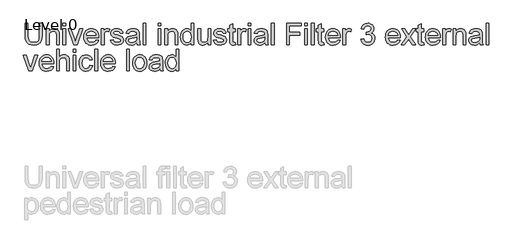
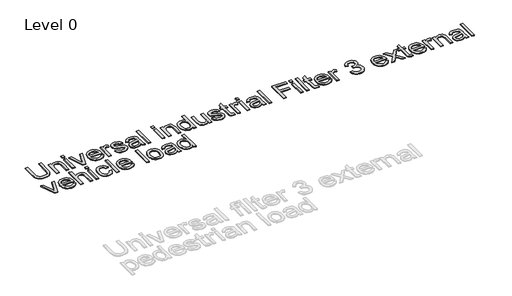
# One storey, part 6 of 10: 1 proxy.
"""IFC4 building model written with IfcOpenShell, lengths in millimetres."""

from ifc_helpers import new_model, si_unit, origin, origin_with_axes, place, context, project, spatial, polyline, outline, extrude, element, save

model = new_model("IFC4")

# Units and contexts
model_context = context("Model", 3, world=origin())
ifc_project = project(units=[si_unit("LENGTHUNIT", "METRE", prefix="MILLI")], contexts=[model_context])

# Site, building, storey
site = spatial("IfcSite", under=ifc_project)
building = spatial("IfcBuilding", under=site)
storey = spatial("IfcBuildingStorey", under=building, Name="Level 0", Elevation=0.0)

# Proxy
placement = place(None, origin())
element("IfcBuildingElementProxy", 1, Name="300mm Arial", ObjectType="300mm Arial", at=placement, inside=storey, context=model_context, shape_type="SweptSolid", body=[
    extrude(outline(polyline([(-15184.5419373, 8728.4409706), (-15146.870821, 8728.4409706), (-15146.870821, 8554.5799397), (-15149.4276009, 8513.8645999), (-15157.0979405, 8482.5118569), (-15171.4269442, 8458.3236157), (-15193.9597164, 8439.1017814), (-15224.7514394, 8426.5478084), (-15263.8572955, 8422.3631507), (-15302.1078259, 8426.0051824), (-15332.6880168, 8436.9312777), (-15355.6070651, 8454.7643574), (-15370.8741679, 8479.1273425), (-15379.4550154, 8511.8044607), (-15382.3152979, 8554.5799397), (-15382.3152979, 8728.4409706), (-15344.6441816, 8728.4409706), (-15344.6441816, 8555.9043149), (-15342.7863776, 8522.0499743), (-15337.2129653, 8498.4779355), (-15327.1146046, 8482.1531719), (-15311.6819549, 8470.0406572), (-15291.5588097, 8462.5358645), (-15267.3889627, 8460.034267), (-15229.0740529, 8464.9822798), (-15214.7312536, 8471.1672958), (-15203.5982247, 8479.8263183), (-15195.261099, 8492.0032123), (-15189.3060092, 8508.7418431), (-15184.5419373, 8555.9043149), (-15184.5419373, 8728.4409706)])), origin_with_axes(), (0.0, 0.0, 1.0), 10.0),
    extrude(outline(polyline([(-15085.655257, 8427.0720402), (-15085.655257, 8648.3898485), (-15047.9841407, 8648.3898485), (-15047.9841407, 8617.4877609), (-15034.8967388, 8633.0675634), (-15019.1789805, 8644.1959938), (-15000.830866, 8650.873052), (-14979.8523952, 8653.098738), (-14961.2835515, 8651.3053133), (-14944.2782063, 8645.9250391), (-14930.0963554, 8637.6293001), (-14919.9979946, 8627.089481), (-14908.7040174, 8599.3879667), (-14906.7174546, 8562.9676492), (-14906.7174546, 8427.0720402), (-14944.3885709, 8427.0720402), (-14944.3885709, 8557.8908777), (-14948.7295784, 8591.2209864), (-14954.735252, 8601.1446033), (-14964.0702576, 8608.842534), (-14976.0356195, 8613.7813498), (-14989.9323619, 8615.4276217), (-15011.9960846, 8611.7304077), (-15030.8040516, 8600.6387655), (-15038.3203406, 8591.5842699), (-15043.6891184, 8579.2096393), (-15047.9841407, 8544.4999731), (-15047.9841407, 8427.0720402), (-15085.655257, 8427.0720402)])), origin_with_axes(), (0.0, 0.0, 1.0), 10.0),
    extrude(outline(polyline([(-14854.9196697, 8690.7698543), (-14854.9196697, 8728.4409706), (-14817.2485534, 8728.4409706), (-14817.2485534, 8690.7698543), (-14854.9196697, 8690.7698543)])), origin_with_axes(), (0.0, 0.0, 1.0), 10.0),
    extrude(outline(polyline([(-14854.9196697, 8427.0720402), (-14854.9196697, 8648.3898485), (-14817.2485534, 8648.3898485), (-14817.2485534, 8427.0720402), (-14854.9196697, 8427.0720402)])), origin_with_axes(), (0.0, 0.0, 1.0), 10.0),
    extrude(outline(polyline([(-14706.4424964, 8427.0720402), (-14784.2863266, 8648.3898485), (-14744.4079183, 8648.3898485), (-14697.2454465, 8515.8051774), (-14683.0452015, 8471.2178796), (-14669.1392621, 8513.3035799), (-14621.6824847, 8648.3898485), (-14581.8040764, 8648.3898485), (-14658.6914134, 8427.0720402), (-14706.4424964, 8427.0720402)])), origin_with_axes(), (0.0, 0.0, 1.0), 10.0),
    extrude(outline(polyline([(-14393.8899533, 8492.9964937), (-14356.954601, 8488.2876042), (-14370.2627322, 8460.4573313), (-14391.4987203, 8439.6536044), (-14420.1843189, 8426.6857641), (-14455.8412813, 8422.3631507), (-14479.2155836, 8424.2278525), (-14500.042303, 8429.8219581), (-14518.3214397, 8439.1454674), (-14534.0529935, 8452.1983805), (-14546.7035356, 8468.6174138), (-14555.7396371, 8488.0392838), (-14561.161298, 8510.4639907), (-14562.9685183, 8535.8915344), (-14561.1429039, 8562.1813015), (-14555.6660607, 8585.3532686), (-14546.5379887, 8605.4074359), (-14533.7586879, 8622.3438032), (-14518.0685208, 8635.7990872), (-14500.2078499, 8645.4100043), (-14480.1766753, 8651.1765546), (-14457.9749969, 8653.098738), (-14436.4883891, 8651.1811531), (-14417.057322, 8645.4283984), (-14399.6817955, 8635.8404739), (-14384.3618096, 8622.4173796), (-14371.8561211, 8605.5178005), (-14362.9234864, 8585.5004214), (-14357.5639055, 8562.3652424), (-14355.7773786, 8536.1122636), (-14355.9981078, 8525.9587205), (-14525.297402, 8525.9587205), (-14518.7766936, 8497.7605656), (-14503.6291525, 8477.0304151), (-14481.7677649, 8464.283304), (-14455.1055173, 8460.034267), (-14435.0559486, 8462.0024356), (-14418.170165, 8467.9069417), (-14404.4481666, 8478.115667), (-14393.8899533, 8492.9964937)]), holes=[polyline([(-14525.297402, 8563.6298368), (-14393.4484949, 8563.6298368), (-14398.5436605, 8583.5322527), (-14408.5316567, 8597.769286), (-14430.4942118, 8611.0130378), (-14458.1221497, 8615.4276217), (-14483.5152044, 8611.9051516), (-14504.5120693, 8601.3377413), (-14519.1077874, 8584.865825), (-14525.297402, 8563.6298368)])]), origin_with_axes(), (0.0, 0.0, 1.0), 10.0),
    extrude(outline(polyline([(-14318.1062623, 8427.0720402), (-14318.1062623, 8648.3898485), (-14285.1440355, 8648.3898485), (-14285.1440355, 8615.6483509), (-14272.9671415, 8634.6310619), (-14261.7467406, 8645.8146745), (-14250.4895516, 8651.2777222), (-14238.2022929, 8653.098738), (-14219.4403112, 8650.1924703), (-14200.3840238, 8641.473667), (-14212.9655881, 8607.7020998), (-14226.2093399, 8613.4962413), (-14239.4530917, 8615.4276217), (-14250.7010837, 8613.5698177), (-14260.7534593, 8607.9964054), (-14268.8744543, 8599.1304493), (-14274.3283049, 8587.3950137), (-14278.9084357, 8566.3521636), (-14280.435146, 8543.3963271), (-14280.435146, 8427.0720402), (-14318.1062623, 8427.0720402)])), origin_with_axes(), (0.0, 0.0, 1.0), 10.0),
    extrude(outline(polyline([(-14190.9662448, 8492.9964937), (-14153.2951285, 8497.7053833), (-14147.3538342, 8481.5921519), (-14135.8575219, 8469.7463516), (-14118.732615, 8462.4622881), (-14095.9055372, 8460.034267), (-14073.3543709, 8462.259953), (-14057.4986569, 8468.9370112), (-14048.117666, 8478.6123077), (-14044.9906691, 8489.8327086), (-14048.1360601, 8499.4344286), (-14057.5722333, 8506.7552804), (-14096.3469956, 8517.4974346), (-14153.0743993, 8535.9283226), (-14167.4309941, 8545.1897518), (-14177.8328575, 8557.4494193), (-14184.1512308, 8571.9255758), (-14186.2573552, 8587.8364721), (-14184.5650981, 8602.4321902), (-14179.4883265, 8615.9058683), (-14171.4868931, 8627.7240774), (-14161.0206504, 8637.3533886), (-14137.0715325, 8648.5002131), (-14104.6611287, 8653.098738), (-14080.1417937, 8651.250131), (-14058.8230321, 8645.7043099), (-14041.6797311, 8637.0039007), (-14029.6867781, 8625.6915294), (-14021.740527, 8610.9302643), (-14016.7373319, 8591.883174), (-14054.4084482, 8587.1742845), (-14059.1633229, 8599.0292818), (-14068.571905, 8607.9596172), (-14082.7261647, 8613.5606206), (-14101.7180727, 8615.4276217), (-14123.3495341, 8613.6433941), (-14137.7705083, 8608.290711), (-14145.8823063, 8600.5651891), (-14148.5862389, 8591.6624448), (-14144.0980786, 8580.6995614), (-14130.0449864, 8572.3854283), (-14097.5977944, 8564.3656008), (-14042.3051305, 8546.6336886), (-14027.7002153, 8538.1540086), (-14016.6269673, 8526.5473317), (-14009.6464064, 8511.7768696), (-14007.3195528, 8493.8058341), (-14010.0510766, 8475.2277934), (-14018.245648, 8457.7533986), (-14031.5905674, 8442.7530102), (-14049.773135, 8431.5969887), (-14071.7356901, 8424.6716102), (-14096.420572, 8422.3631507), (-14134.404388, 8426.8145228), (-14162.1242963, 8440.1686392), (-14180.6287607, 8462.2783471), (-14190.9662448, 8492.9964937)])), origin_with_axes(), (0.0, 0.0, 1.0), 10.0),
    extrude(outline(polyline([(-13823.6728608, 8455.3253774), (-13841.6714874, 8439.8927277), (-13860.2035429, 8429.794367), (-13879.6920916, 8424.2209547), (-13900.5601978, 8422.3631507), (-13932.0416995, 8426.8329169), (-13955.2642505, 8440.2422156), (-13969.5840571, 8460.6044841), (-13974.357326, 8485.9331594), (-13972.5547042, 8501.5497501), (-13967.1468389, 8515.731601), (-13958.8051147, 8527.8717069), (-13948.2009161, 8537.3630624), (-13921.8237771, 8549.7238974), (-13889.2294323, 8555.3892801), (-13850.7121874, 8561.3489684), (-13823.89359, 8568.3387263), (-13823.6728608, 8576.7264358), (-13826.2664288, 8593.538643), (-13834.047133, 8604.5383147), (-13851.4479514, 8612.705295), (-13875.6913749, 8615.4276217), (-13898.1321766, 8613.6158029), (-13913.8039496, 8608.1803464), (-13924.4909216, 8598.1279709), (-13931.9773202, 8582.465395), (-13969.6484365, 8587.1742845), (-13963.109334, 8607.7756762), (-13953.3512641, 8623.962484), (-13939.4637188, 8636.3417132), (-13920.5361901, 8645.5203689), (-13897.3872156, 8651.2041458), (-13870.8353326, 8653.098738), (-13845.3687014, 8651.424875), (-13825.181177, 8646.4032857), (-13809.9600594, 8638.8525078), (-13799.3926491, 8629.5910785), (-13792.3844971, 8618.1407514), (-13787.8411545, 8604.0232799), (-13786.0017445, 8571.0610531), (-13786.0017445, 8524.1928869), (-13784.0887581, 8458.74668), (-13776.5839654, 8427.0720402), (-13814.2550817, 8427.0720402), (-13823.6728608, 8455.3253774)]), holes=[polyline([(-13823.6728608, 8530.66761), (-13884.4469664, 8519.1161154), (-13916.8573702, 8513.0092743), (-13931.5358618, 8503.0764604), (-13936.6862097, 8488.5819098), (-13933.8811095, 8477.379903), (-13925.4658088, 8468.2012473), (-13911.6242488, 8462.076012), (-13892.5403703, 8460.034267), (-13872.3068605, 8462.2875442), (-13854.4277956, 8469.0473758), (-13839.933245, 8479.0077809), (-13829.8532783, 8490.8627782), (-13825.3835121, 8503.0764604), (-13823.89359, 8519.9990322), (-13823.6728608, 8530.66761)])]), origin_with_axes(), (0.0, 0.0, 1.0), 10.0),
    extrude(outline(polyline([(-13734.2039596, 8427.0720402), (-13734.2039596, 8728.4409706), (-13696.5328432, 8728.4409706), (-13696.5328432, 8427.0720402), (-13734.2039596, 8427.0720402)])), origin_with_axes(), (0.0, 0.0, 1.0), 10.0),
    extrude(outline(polyline([(-13522.3039303, 8427.0720402), (-13522.3039303, 8648.3898485), (-13484.632814, 8648.3898485), (-13484.632814, 8427.0720402), (-13522.3039303, 8427.0720402)])), origin_with_axes(), (0.0, 0.0, 1.0), 10.0),
    extrude(outline(polyline([(-13522.3039303, 8690.7698543), (-13522.3039303, 8728.4409706), (-13484.632814, 8728.4409706), (-13484.632814, 8690.7698543), (-13522.3039303, 8690.7698543)])), origin_with_axes(), (0.0, 0.0, 1.0), 10.0),
    extrude(outline(polyline([(-13428.1261396, 8427.0720402), (-13428.1261396, 8648.3898485), (-13390.4550233, 8648.3898485), (-13390.4550233, 8617.4877609), (-13377.3676213, 8633.0675634), (-13361.649863, 8644.1959938), (-13343.3017485, 8650.873052), (-13322.3232778, 8653.098738), (-13303.754434, 8651.3053133), (-13286.7490888, 8645.9250391), (-13272.5672379, 8637.6293001), (-13262.4688771, 8627.089481), (-13251.1748999, 8599.3879667), (-13249.1883371, 8562.9676492), (-13249.1883371, 8427.0720402), (-13286.8594534, 8427.0720402), (-13286.8594534, 8557.8908777), (-13291.200461, 8591.2209864), (-13297.2061345, 8601.1446033), (-13306.5411402, 8608.842534), (-13318.5065021, 8613.7813498), (-13332.4032444, 8615.4276217), (-13354.4669671, 8611.7304077), (-13373.2749341, 8600.6387655), (-13380.7912231, 8591.5842699), (-13386.160001, 8579.2096393), (-13390.4550233, 8544.4999731), (-13390.4550233, 8427.0720402), (-13428.1261396, 8427.0720402)])), origin_with_axes(), (0.0, 0.0, 1.0), 10.0),
    extrude(outline(polyline([(-13060.8327556, 8427.0720402), (-13060.8327556, 8462.6094409), (-13072.1037402, 8445.0016889), (-13085.7567608, 8432.4247232), (-13101.7918172, 8424.8785438), (-13120.2089096, 8422.3631507), (-13144.5626977, 8426.0051824), (-13166.8563466, 8436.9312777), (-13185.7286929, 8454.3780813), (-13199.8185734, 8477.5822381), (-13208.5925589, 8505.6056491), (-13211.5172208, 8537.5102151), (-13208.8224852, 8569.019308), (-13200.7382783, 8597.4749804), (-13187.2737973, 8621.2585514), (-13168.4382392, 8638.7513402), (-13145.6571466, 8649.5118886), (-13120.3560624, 8653.098738), (-13101.9251744, 8650.5327611), (-13085.6280021, 8642.8348304), (-13071.8140331, 8631.0350154), (-13060.8327556, 8616.1633857), (-13060.8327556, 8728.4409706), (-13023.1616393, 8728.4409706), (-13023.1616393, 8427.0720402), (-13060.8327556, 8427.0720402)]), holes=[polyline([(-13173.8461045, 8537.6573679), (-13169.5970675, 8503.5822981), (-13156.8499563, 8479.3480717), (-13138.3270979, 8464.8627182), (-13116.7508189, 8460.034267), (-13095.1837369, 8464.641989), (-13077.129928, 8478.4651549), (-13064.9070487, 8501.7612823), (-13060.8327556, 8534.7878884), (-13064.9806251, 8570.8955062), (-13077.4242336, 8595.929876), (-13095.937895, 8610.5531853), (-13118.2959232, 8615.4276217), (-13140.0929314, 8610.7463233), (-13157.9536023, 8596.7024282), (-13169.872979, 8572.5785663), (-13173.8461045, 8537.6573679)])]), origin_with_axes(), (0.0, 0.0, 1.0), 10.0),
    extrude(outline(polyline([(-12825.3882787, 8427.0720402), (-12825.3882787, 8465.1110385), (-12839.0183066, 8446.4088376), (-12854.8924147, 8433.0501226), (-12873.0106029, 8425.0348936), (-12893.3728714, 8422.3631507), (-12911.7209859, 8424.2393488), (-12928.7999075, 8429.8679434), (-12943.1289112, 8438.3292292), (-12953.227272, 8448.7035015), (-12964.4476728, 8476.441804), (-12966.6549648, 8511.4641699), (-12966.6549648, 8648.3898485), (-12928.9838485, 8648.3898485), (-12928.9838485, 8529.1960821), (-12926.7029801, 8490.7892018), (-12921.2123414, 8477.9777113), (-12911.8037593, 8468.2380355), (-12899.1026335, 8462.0852091), (-12883.7343631, 8460.034267), (-12867.483176, 8462.1311943), (-12852.2804525, 8468.4219765), (-12839.7448735, 8478.3271992), (-12831.4951198, 8491.2674484), (-12826.914989, 8508.9901635), (-12825.3882787, 8533.242784), (-12825.3882787, 8648.3898485), (-12787.7171624, 8648.3898485), (-12787.7171624, 8427.0720402), (-12825.3882787, 8427.0720402)])), origin_with_axes(), (0.0, 0.0, 1.0), 10.0),
    extrude(outline(polyline([(-12750.0460461, 8492.9964937), (-12712.3749298, 8497.7053833), (-12706.4336355, 8481.5921519), (-12694.9373232, 8469.7463516), (-12677.8124163, 8462.4622881), (-12654.9853385, 8460.034267), (-12632.4341722, 8462.259953), (-12616.5784582, 8468.9370112), (-12607.1974673, 8478.6123077), (-12604.0704704, 8489.8327086), (-12607.2158614, 8499.4344286), (-12616.6520346, 8506.7552804), (-12655.4267969, 8517.4974346), (-12712.1542006, 8535.9283226), (-12726.5107954, 8545.1897518), (-12736.9126588, 8557.4494193), (-12743.2310321, 8571.9255758), (-12745.3371565, 8587.8364721), (-12743.6448993, 8602.4321902), (-12738.5681278, 8615.9058683), (-12730.5666944, 8627.7240774), (-12720.1004517, 8637.3533886), (-12696.1513338, 8648.5002131), (-12663.74093, 8653.098738), (-12639.221595, 8651.250131), (-12617.9028334, 8645.7043099), (-12600.7595324, 8637.0039007), (-12588.7665794, 8625.6915294), (-12580.8203283, 8610.9302643), (-12575.8171331, 8591.883174), (-12613.4882494, 8587.1742845), (-12618.2431242, 8599.0292818), (-12627.6517063, 8607.9596172), (-12641.805966, 8613.5606206), (-12660.797874, 8615.4276217), (-12682.4293353, 8613.6433941), (-12696.8503096, 8608.290711), (-12704.9621075, 8600.5651891), (-12707.6660402, 8591.6624448), (-12703.1778799, 8580.6995614), (-12689.1247877, 8572.3854283), (-12656.6775957, 8564.3656008), (-12601.3849318, 8546.6336886), (-12586.7800166, 8538.1540086), (-12575.7067685, 8526.5473317), (-12568.7262077, 8511.7768696), (-12566.3993541, 8493.8058341), (-12569.1308779, 8475.2277934), (-12577.3254493, 8457.7533986), (-12590.6703687, 8442.7530102), (-12608.8529363, 8431.5969887), (-12630.8154914, 8424.6716102), (-12655.5003733, 8422.3631507), (-12693.4841893, 8426.8145228), (-12721.2040976, 8440.1686392), (-12739.708562, 8462.2783471), (-12750.0460461, 8492.9964937)])), origin_with_axes(), (0.0, 0.0, 1.0), 10.0),
    extrude(outline(polyline([(-12443.9682261, 8458.4891626), (-12439.2593365, 8425.9683942), (-12467.4390974, 8422.3631507), (-12485.5204974, 8423.9266491), (-12499.0033725, 8428.6171446), (-12508.5315162, 8435.8460258), (-12514.7487219, 8445.0246816), (-12518.1700245, 8460.7884251), (-12519.3104587, 8487.7725694), (-12519.3104587, 8610.7187322), (-12547.5637959, 8610.7187322), (-12547.5637959, 8648.3898485), (-12519.3104587, 8648.3898485), (-12519.3104587, 8702.1741962), (-12481.6393424, 8724.3206923), (-12481.6393424, 8648.3898485), (-12443.9682261, 8648.3898485), (-12443.9682261, 8610.7187322), (-12481.6393424, 8610.7187322), (-12481.6393424, 8488.8762154), (-12479.6527796, 8469.452046), (-12473.2148447, 8462.5726527), (-12460.3757631, 8460.034267), (-12443.9682261, 8458.4891626)])), origin_with_axes(), (0.0, 0.0, 1.0), 10.0),
    extrude(outline(polyline([(-12406.2971098, 8427.0720402), (-12406.2971098, 8648.3898485), (-12373.334883, 8648.3898485), (-12373.334883, 8615.6483509), (-12361.157989, 8634.6310619), (-12349.9375881, 8645.8146745), (-12338.6803991, 8651.2777222), (-12326.3931404, 8653.098738), (-12307.6311587, 8650.1924703), (-12288.5748713, 8641.473667), (-12301.1564355, 8607.7020998), (-12314.4001874, 8613.4962413), (-12327.6439392, 8615.4276217), (-12338.8919312, 8613.5698177), (-12348.9443067, 8607.9964054), (-12357.0653018, 8599.1304493), (-12362.5191523, 8587.3950137), (-12367.0992832, 8566.3521636), (-12368.6259935, 8543.3963271), (-12368.6259935, 8427.0720402), (-12406.2971098, 8427.0720402)])), origin_with_axes(), (0.0, 0.0, 1.0), 10.0),
    extrude(outline(polyline([(-12265.0304236, 8690.7698543), (-12265.0304236, 8728.4409706), (-12227.3593073, 8728.4409706), (-12227.3593073, 8690.7698543), (-12265.0304236, 8690.7698543)])), origin_with_axes(), (0.0, 0.0, 1.0), 10.0),
    extrude(outline(polyline([(-12265.0304236, 8427.0720402), (-12265.0304236, 8648.3898485), (-12227.3593073, 8648.3898485), (-12227.3593073, 8427.0720402), (-12265.0304236, 8427.0720402)])), origin_with_axes(), (0.0, 0.0, 1.0), 10.0),
    extrude(outline(polyline([(-12029.5859467, 8455.3253774), (-12047.5845733, 8439.8927277), (-12066.1166288, 8429.794367), (-12085.6051775, 8424.2209547), (-12106.4732837, 8422.3631507), (-12137.9547854, 8426.8329169), (-12161.1773364, 8440.2422156), (-12175.497143, 8460.6044841), (-12180.2704119, 8485.9331594), (-12178.4677902, 8501.5497501), (-12173.0599248, 8515.731601), (-12164.7182006, 8527.8717069), (-12154.1140021, 8537.3630624), (-12127.736863, 8549.7238974), (-12095.1425182, 8555.3892801), (-12056.6252733, 8561.3489684), (-12029.8066759, 8568.3387263), (-12029.5859467, 8576.7264358), (-12032.1795148, 8593.538643), (-12039.960219, 8604.5383147), (-12057.3610373, 8612.705295), (-12081.6044608, 8615.4276217), (-12104.0452625, 8613.6158029), (-12119.7170355, 8608.1803464), (-12130.4040075, 8598.1279709), (-12137.8904061, 8582.465395), (-12175.5615224, 8587.1742845), (-12169.0224199, 8607.7756762), (-12159.26435, 8623.962484), (-12145.3768047, 8636.3417132), (-12126.449276, 8645.5203689), (-12103.3003015, 8651.2041458), (-12076.7484185, 8653.098738), (-12051.2817874, 8651.424875), (-12031.0942629, 8646.4032857), (-12015.8731453, 8638.8525078), (-12005.305735, 8629.5910785), (-11998.297583, 8618.1407514), (-11993.7542404, 8604.0232799), (-11991.9148304, 8571.0610531), (-11991.9148304, 8524.1928869), (-11990.001844, 8458.74668), (-11982.4970513, 8427.0720402), (-12020.1681676, 8427.0720402), (-12029.5859467, 8455.3253774)]), holes=[polyline([(-12029.5859467, 8530.66761), (-12090.3600523, 8519.1161154), (-12122.7704561, 8513.0092743), (-12137.4489477, 8503.0764604), (-12142.5992956, 8488.5819098), (-12139.7941954, 8477.379903), (-12131.3788948, 8468.2012473), (-12117.5373347, 8462.076012), (-12098.4534562, 8460.034267), (-12078.2199465, 8462.2875442), (-12060.3408815, 8469.0473758), (-12045.8463309, 8479.0077809), (-12035.7663642, 8490.8627782), (-12031.296598, 8503.0764604), (-12029.8066759, 8519.9990322), (-12029.5859467, 8530.66761)])]), origin_with_axes(), (0.0, 0.0, 1.0), 10.0),
    extrude(outline(polyline([(-11940.1170455, 8427.0720402), (-11940.1170455, 8728.4409706), (-11902.4459292, 8728.4409706), (-11902.4459292, 8427.0720402), (-11940.1170455, 8427.0720402)])), origin_with_axes(), (0.0, 0.0, 1.0), 10.0),
    extrude(outline(polyline([(-11723.5081267, 8427.0720402), (-11723.5081267, 8728.4409706), (-11521.0258766, 8728.4409706), (-11521.0258766, 8690.7698543), (-11685.8370104, 8690.7698543), (-11685.8370104, 8601.3009531), (-11544.5703243, 8601.3009531), (-11544.5703243, 8563.6298368), (-11685.8370104, 8563.6298368), (-11685.8370104, 8427.0720402), (-11723.5081267, 8427.0720402)])), origin_with_axes(), (0.0, 0.0, 1.0), 10.0),
    extrude(outline(polyline([(-11473.9369812, 8690.7698543), (-11473.9369812, 8728.4409706), (-11436.2658649, 8728.4409706), (-11436.2658649, 8690.7698543), (-11473.9369812, 8690.7698543)])), origin_with_axes(), (0.0, 0.0, 1.0), 10.0),
    extrude(outline(polyline([(-11473.9369812, 8427.0720402), (-11473.9369812, 8648.3898485), (-11436.2658649, 8648.3898485), (-11436.2658649, 8427.0720402), (-11473.9369812, 8427.0720402)])), origin_with_axes(), (0.0, 0.0, 1.0), 10.0),
    extrude(outline(polyline([(-11379.7591904, 8427.0720402), (-11379.7591904, 8728.4409706), (-11342.0880741, 8728.4409706), (-11342.0880741, 8427.0720402), (-11379.7591904, 8427.0720402)])), origin_with_axes(), (0.0, 0.0, 1.0), 10.0),
    extrude(outline(polyline([(-11205.5302775, 8458.4891626), (-11200.821388, 8425.9683942), (-11229.0011488, 8422.3631507), (-11247.0825489, 8423.9266491), (-11260.565424, 8428.6171446), (-11270.0935677, 8435.8460258), (-11276.3107734, 8445.0246816), (-11279.7320759, 8460.7884251), (-11280.8725101, 8487.7725694), (-11280.8725101, 8610.7187322), (-11309.1258474, 8610.7187322), (-11309.1258474, 8648.3898485), (-11280.8725101, 8648.3898485), (-11280.8725101, 8702.1741962), (-11243.2013938, 8724.3206923), (-11243.2013938, 8648.3898485), (-11205.5302775, 8648.3898485), (-11205.5302775, 8610.7187322), (-11243.2013938, 8610.7187322), (-11243.2013938, 8488.8762154), (-11241.214831, 8469.452046), (-11234.7768961, 8462.5726527), (-11221.9378145, 8460.034267), (-11205.5302775, 8458.4891626)])), origin_with_axes(), (0.0, 0.0, 1.0), 10.0),
    extrude(outline(polyline([(-11012.9072648, 8492.9964937), (-10975.9719125, 8488.2876042), (-10989.2800437, 8460.4573313), (-11010.5160319, 8439.6536044), (-11039.2016304, 8426.6857641), (-11074.8585928, 8422.3631507), (-11098.2328951, 8424.2278525), (-11119.0596145, 8429.8219581), (-11137.3387512, 8439.1454674), (-11153.070305, 8452.1983805), (-11165.7208471, 8468.6174138), (-11174.7569486, 8488.0392838), (-11180.1786095, 8510.4639907), (-11181.9858298, 8535.8915344), (-11180.1602154, 8562.1813015), (-11174.6833722, 8585.3532686), (-11165.5553002, 8605.4074359), (-11152.7759994, 8622.3438032), (-11137.0858323, 8635.7990872), (-11119.2251614, 8645.4100043), (-11099.1939868, 8651.1765546), (-11076.9923084, 8653.098738), (-11055.5057006, 8651.1811531), (-11036.0746335, 8645.4283984), (-11018.699107, 8635.8404739), (-11003.3791212, 8622.4173796), (-10990.8734326, 8605.5178005), (-10981.9407979, 8585.5004214), (-10976.5812171, 8562.3652424), (-10974.7946901, 8536.1122636), (-10975.0154193, 8525.9587205), (-11144.3147135, 8525.9587205), (-11137.7940051, 8497.7605656), (-11122.646464, 8477.0304151), (-11100.7850764, 8464.283304), (-11074.1228288, 8460.034267), (-11054.0732601, 8462.0024356), (-11037.1874765, 8467.9069417), (-11023.4654781, 8478.115667), (-11012.9072648, 8492.9964937)]), holes=[polyline([(-11144.3147135, 8563.6298368), (-11012.4658064, 8563.6298368), (-11017.5609721, 8583.5322527), (-11027.5489682, 8597.769286), (-11049.5115234, 8611.0130378), (-11077.1394612, 8615.4276217), (-11102.5325159, 8611.9051516), (-11123.5293808, 8601.3377413), (-11138.1250989, 8584.865825), (-11144.3147135, 8563.6298368)])]), origin_with_axes(), (0.0, 0.0, 1.0), 10.0),
    extrude(outline(polyline([(-10937.1235738, 8427.0720402), (-10937.1235738, 8648.3898485), (-10904.1613471, 8648.3898485), (-10904.1613471, 8615.6483509), (-10891.984453, 8634.6310619), (-10880.7640522, 8645.8146745), (-10869.5068631, 8651.2777222), (-10857.2196045, 8653.098738), (-10838.4576227, 8650.1924703), (-10819.4013354, 8641.473667), (-10831.9828996, 8607.7020998), (-10845.2266514, 8613.4962413), (-10858.4704033, 8615.4276217), (-10869.7183953, 8613.5698177), (-10879.7707708, 8607.9964054), (-10887.8917658, 8599.1304493), (-10893.3456164, 8587.3950137), (-10897.9257472, 8566.3521636), (-10899.4524575, 8543.3963271), (-10899.4524575, 8427.0720402), (-10937.1235738, 8427.0720402)])), origin_with_axes(), (0.0, 0.0, 1.0), 10.0),
    extrude(outline(polyline([(-10687.5524283, 8507.1231623), (-10649.881312, 8511.8320519), (-10641.4476173, 8488.1588455), (-10629.0959793, 8472.1743728), (-10612.2193927, 8463.0692934), (-10590.2108524, 8460.034267), (-10564.3855363, 8464.2097276), (-10544.4463322, 8476.7361095), (-10531.699221, 8495.4245149), (-10527.450184, 8518.0860458), (-10531.6624328, 8539.5979455), (-10544.2991794, 8557.0447491), (-10563.4290431, 8568.6054408), (-10587.1206436, 8572.4590047), (-10613.5345709, 8568.3387263), (-10609.3407161, 8606.0098427), (-10603.3074514, 8605.5683843), (-10580.737891, 8608.2723169), (-10560.5595636, 8616.3841149), (-10546.3225304, 8630.1061133), (-10541.5768526, 8649.6406473), (-10545.0165493, 8665.9102285), (-10555.3356392, 8679.1079951), (-10571.0809886, 8687.8543895), (-10590.7994636, 8690.7698543), (-10610.5547267, 8687.8267984), (-10626.7047463, 8678.9976305), (-10638.4953642, 8664.2823507), (-10645.1724225, 8643.680959), (-10682.8435388, 8648.3898485), (-10671.7518966, 8682.216598), (-10652.0150276, 8707.4716969), (-10625.0124891, 8723.1986522), (-10592.1238388, 8728.4409706), (-10568.4414353, 8725.8565996), (-10546.6904123, 8718.1034866), (-10528.3514949, 8705.8714102), (-10514.905408, 8689.8501494), (-10506.6556542, 8671.3916702), (-10503.9057363, 8651.8479393), (-10506.5176985, 8633.6377805), (-10514.353585, 8617.1198789), (-10527.3030312, 8603.0483926), (-10545.2556726, 8592.1774796), (-10521.6744367, 8582.649336), (-10504.2000419, 8566.42574), (-10493.3843112, 8544.3896085), (-10489.7790677, 8517.4238582), (-10491.5816895, 8498.3123886), (-10496.9895548, 8480.7092351), (-10506.0026637, 8464.6143978), (-10518.6210161, 8450.0278767), (-10533.993885, 8437.9245591), (-10551.2705432, 8429.2793322), (-10570.4509907, 8424.092196), (-10591.5352276, 8422.3631507), (-10610.5915149, 8423.8392772), (-10627.9555451, 8428.2676567), (-10643.6273181, 8435.6482892), (-10657.6068339, 8445.9811747), (-10669.328474, 8458.659308), (-10678.2266197, 8473.0756837), (-10684.3012712, 8489.2303018), (-10687.5524283, 8507.1231623)])), origin_with_axes(), (0.0, 0.0, 1.0), 10.0),
    extrude(outline(polyline([(-10174.724927, 8492.9964937), (-10137.7895747, 8488.2876042), (-10151.0977059, 8460.4573313), (-10172.3336941, 8439.6536044), (-10201.0192926, 8426.6857641), (-10236.676255, 8422.3631507), (-10260.0505573, 8424.2278525), (-10280.8772767, 8429.8219581), (-10299.1564134, 8439.1454674), (-10314.8879672, 8452.1983805), (-10327.5385093, 8468.6174138), (-10336.5746108, 8488.0392838), (-10341.9962717, 8510.4639907), (-10343.803492, 8535.8915344), (-10341.9778776, 8562.1813015), (-10336.5010344, 8585.3532686), (-10327.3729624, 8605.4074359), (-10314.5936616, 8622.3438032), (-10298.9034945, 8635.7990872), (-10281.0428236, 8645.4100043), (-10261.011649, 8651.1765546), (-10238.8099706, 8653.098738), (-10217.3233628, 8651.1811531), (-10197.8922957, 8645.4283984), (-10180.5167692, 8635.8404739), (-10165.1967833, 8622.4173796), (-10152.6910948, 8605.5178005), (-10143.7584601, 8585.5004214), (-10138.3988793, 8562.3652424), (-10136.6123523, 8536.1122636), (-10136.8330815, 8525.9587205), (-10306.1323757, 8525.9587205), (-10299.6116673, 8497.7605656), (-10284.4641262, 8477.0304151), (-10262.6027386, 8464.283304), (-10235.940491, 8460.034267), (-10215.8909223, 8462.0024356), (-10199.0051387, 8467.9069417), (-10185.2831403, 8478.115667), (-10174.724927, 8492.9964937)]), holes=[polyline([(-10306.1323757, 8563.6298368), (-10174.2834686, 8563.6298368), (-10179.3786343, 8583.5322527), (-10189.3666304, 8597.769286), (-10211.3291855, 8611.0130378), (-10238.9571234, 8615.4276217), (-10264.3501781, 8611.9051516), (-10285.347043, 8601.3377413), (-10299.9427611, 8584.865825), (-10306.1323757, 8563.6298368)])]), origin_with_axes(), (0.0, 0.0, 1.0), 10.0),
    extrude(outline(polyline([(-10122.4856837, 8427.0720402), (-10041.9931032, 8538.3195555), (-10117.7767942, 8648.3898485), (-10072.4537324, 8648.3898485), (-10035.886262, 8595.4148412), (-10018.8165375, 8570.3988655), (-10004.0276813, 8590.8531045), (-9962.3834394, 8648.3898485), (-9917.0603776, 8648.3898485), (-9996.6700414, 8538.3195555), (-9920.0034336, 8427.0720402), (-9965.3264954, 8427.0720402), (-10011.4588976, 8493.9529869), (-10019.9201835, 8506.1666692), (-10077.1626219, 8427.0720402), (-10122.4856837, 8427.0720402)])), origin_with_axes(), (0.0, 0.0, 1.0), 10.0),
    extrude(outline(polyline([(-9806.9900846, 8458.4891626), (-9802.2811951, 8425.9683942), (-9830.4609559, 8422.3631507), (-9848.542356, 8423.9266491), (-9862.0252311, 8428.6171446), (-9871.5533748, 8435.8460258), (-9877.7705805, 8445.0246816), (-9881.1918831, 8460.7884251), (-9882.3323173, 8487.7725694), (-9882.3323173, 8610.7187322), (-9910.5856545, 8610.7187322), (-9910.5856545, 8648.3898485), (-9882.3323173, 8648.3898485), (-9882.3323173, 8702.1741962), (-9844.661201, 8724.3206923), (-9844.661201, 8648.3898485), (-9806.9900846, 8648.3898485), (-9806.9900846, 8610.7187322), (-9844.661201, 8610.7187322), (-9844.661201, 8488.8762154), (-9842.6746382, 8469.452046), (-9836.2367033, 8462.5726527), (-9823.3976216, 8460.034267), (-9806.9900846, 8458.4891626)])), origin_with_axes(), (0.0, 0.0, 1.0), 10.0),
    extrude(outline(polyline([(-9614.367072, 8492.9964937), (-9577.4317197, 8488.2876042), (-9590.7398508, 8460.4573313), (-9611.975839, 8439.6536044), (-9640.6614376, 8426.6857641), (-9676.3184, 8422.3631507), (-9699.6927022, 8424.2278525), (-9720.5194217, 8429.8219581), (-9738.7985583, 8439.1454674), (-9754.5301121, 8452.1983805), (-9767.1806542, 8468.6174138), (-9776.2167557, 8488.0392838), (-9781.6384167, 8510.4639907), (-9783.445637, 8535.8915344), (-9781.6200226, 8562.1813015), (-9776.1431793, 8585.3532686), (-9767.0151073, 8605.4074359), (-9754.2358065, 8622.3438032), (-9738.5456394, 8635.7990872), (-9720.6849686, 8645.4100043), (-9700.6537939, 8651.1765546), (-9678.4521155, 8653.098738), (-9656.9655077, 8651.1811531), (-9637.5344406, 8645.4283984), (-9620.1589141, 8635.8404739), (-9604.8389283, 8622.4173796), (-9592.3332397, 8605.5178005), (-9583.400605, 8585.5004214), (-9578.0410242, 8562.3652424), (-9576.2544973, 8536.1122636), (-9576.4752265, 8525.9587205), (-9745.7745206, 8525.9587205), (-9739.2538123, 8497.7605656), (-9724.1062711, 8477.0304151), (-9702.2448836, 8464.283304), (-9675.582636, 8460.034267), (-9655.5330672, 8462.0024356), (-9638.6472837, 8467.9069417), (-9624.9252852, 8478.115667), (-9614.367072, 8492.9964937)]), holes=[polyline([(-9745.7745206, 8563.6298368), (-9613.9256136, 8563.6298368), (-9619.0207792, 8583.5322527), (-9629.0087754, 8597.769286), (-9650.9713305, 8611.0130378), (-9678.5992683, 8615.4276217), (-9703.992323, 8611.9051516), (-9724.9891879, 8601.3377413), (-9739.5849061, 8584.865825), (-9745.7745206, 8563.6298368)])]), origin_with_axes(), (0.0, 0.0, 1.0), 10.0),
    extrude(outline(polyline([(-9538.583381, 8427.0720402), (-9538.583381, 8648.3898485), (-9505.6211542, 8648.3898485), (-9505.6211542, 8615.6483509), (-9493.4442602, 8634.6310619), (-9482.2238593, 8645.8146745), (-9470.9666702, 8651.2777222), (-9458.6794116, 8653.098738), (-9439.9174299, 8650.1924703), (-9420.8611425, 8641.473667), (-9433.4427067, 8607.7020998), (-9446.6864586, 8613.4962413), (-9459.9302104, 8615.4276217), (-9471.1782024, 8613.5698177), (-9481.2305779, 8607.9964054), (-9489.351573, 8599.1304493), (-9494.8054235, 8587.3950137), (-9499.3855544, 8566.3521636), (-9500.9122647, 8543.3963271), (-9500.9122647, 8427.0720402), (-9538.583381, 8427.0720402)])), origin_with_axes(), (0.0, 0.0, 1.0), 10.0),
    extrude(outline(polyline([(-9397.3166948, 8427.0720402), (-9397.3166948, 8648.3898485), (-9359.6455785, 8648.3898485), (-9359.6455785, 8617.4877609), (-9346.5581765, 8633.0675634), (-9330.8404183, 8644.1959938), (-9312.4923038, 8650.873052), (-9291.513833, 8653.098738), (-9272.9449893, 8651.3053133), (-9255.9396441, 8645.9250391), (-9241.7577932, 8637.6293001), (-9231.6594324, 8627.089481), (-9220.3654551, 8599.3879667), (-9218.3788924, 8562.9676492), (-9218.3788924, 8427.0720402), (-9256.0500087, 8427.0720402), (-9256.0500087, 8557.8908777), (-9260.3910162, 8591.2209864), (-9266.3966898, 8601.1446033), (-9275.7316954, 8608.842534), (-9287.6970573, 8613.7813498), (-9301.5937997, 8615.4276217), (-9323.6575223, 8611.7304077), (-9342.4654893, 8600.6387655), (-9349.9817783, 8591.5842699), (-9355.3505562, 8579.2096393), (-9359.6455785, 8544.4999731), (-9359.6455785, 8427.0720402), (-9397.3166948, 8427.0720402)])), origin_with_axes(), (0.0, 0.0, 1.0), 10.0),
    extrude(outline(polyline([(-9025.3144213, 8455.3253774), (-9043.3130479, 8439.8927277), (-9061.8451034, 8429.794367), (-9081.3336521, 8424.2209547), (-9102.2017583, 8422.3631507), (-9133.68326, 8426.8329169), (-9156.905811, 8440.2422156), (-9171.2256176, 8460.6044841), (-9175.9988865, 8485.9331594), (-9174.1962647, 8501.5497501), (-9168.7883994, 8515.731601), (-9160.4466752, 8527.8717069), (-9149.8424767, 8537.3630624), (-9123.4653376, 8549.7238974), (-9090.8709928, 8555.3892801), (-9052.3537479, 8561.3489684), (-9025.5351505, 8568.3387263), (-9025.3144213, 8576.7264358), (-9027.9079894, 8593.538643), (-9035.6886936, 8604.5383147), (-9053.0895119, 8612.705295), (-9077.3329354, 8615.4276217), (-9099.7737371, 8613.6158029), (-9115.4455101, 8608.1803464), (-9126.1324821, 8598.1279709), (-9133.6188807, 8582.465395), (-9171.289997, 8587.1742845), (-9164.7508945, 8607.7756762), (-9154.9928246, 8623.962484), (-9141.1052793, 8636.3417132), (-9122.1777506, 8645.5203689), (-9099.0287761, 8651.2041458), (-9072.4768931, 8653.098738), (-9047.010262, 8651.424875), (-9026.8227375, 8646.4032857), (-9011.6016199, 8638.8525078), (-9001.0342096, 8629.5910785), (-8994.0260576, 8618.1407514), (-8989.482715, 8604.0232799), (-8987.643305, 8571.0610531), (-8987.643305, 8524.1928869), (-8985.7303186, 8458.74668), (-8978.2255259, 8427.0720402), (-9015.8966422, 8427.0720402), (-9025.3144213, 8455.3253774)]), holes=[polyline([(-9025.3144213, 8530.66761), (-9086.0885269, 8519.1161154), (-9118.4989307, 8513.0092743), (-9133.1774223, 8503.0764604), (-9138.3277702, 8488.5819098), (-9135.52267, 8477.379903), (-9127.1073694, 8468.2012473), (-9113.2658093, 8462.076012), (-9094.1819308, 8460.034267), (-9073.9484211, 8462.2875442), (-9056.0693561, 8469.0473758), (-9041.5748055, 8479.0077809), (-9031.4948388, 8490.8627782), (-9027.0250726, 8503.0764604), (-9025.5351505, 8519.9990322), (-9025.3144213, 8530.66761)])]), origin_with_axes(), (0.0, 0.0, 1.0), 10.0),
    extrude(outline(polyline([(-8935.8455201, 8427.0720402), (-8935.8455201, 8728.4409706), (-8898.1744038, 8728.4409706), (-8898.1744038, 8427.0720402), (-8935.8455201, 8427.0720402)])), origin_with_axes(), (0.0, 0.0, 1.0), 10.0),
    extrude(outline(polyline([(-15332.724805, 8061.1475867), (-15410.5686352, 8282.465395), (-15370.6902269, 8282.465395), (-15323.5277551, 8149.8807239), (-15309.3275101, 8105.2934261), (-15295.4215707, 8147.3791263), (-15247.9647933, 8282.465395), (-15208.086385, 8282.465395), (-15284.973722, 8061.1475867), (-15332.724805, 8061.1475867)])), origin_with_axes(), (0.0, 0.0, 1.0), 10.0),
    extrude(outline(polyline([(-15020.1722619, 8127.0720402), (-14983.2369096, 8122.3631507), (-14996.5450408, 8094.5328777), (-15017.7810289, 8073.7291509), (-15046.4666275, 8060.7613106), (-15082.1235899, 8056.4386971), (-15105.4978922, 8058.303399), (-15126.3246116, 8063.8975046), (-15144.6037482, 8073.2210139), (-15160.3353021, 8086.2739269), (-15172.9858442, 8102.6929602), (-15182.0219457, 8122.1148303), (-15187.4436066, 8144.5395372), (-15189.2508269, 8169.9670808), (-15187.4252125, 8196.2568479), (-15181.9483693, 8219.4288151), (-15172.8202973, 8239.4829823), (-15160.0409965, 8256.4193497), (-15144.3508294, 8269.8746337), (-15126.4901585, 8279.4855508), (-15106.4589839, 8285.2521011), (-15084.2573055, 8287.1742845), (-15062.7706977, 8285.2566996), (-15043.3396305, 8279.5039449), (-15025.9641041, 8269.9160204), (-15010.6441182, 8256.4929261), (-14998.1384296, 8239.5933469), (-14989.205795, 8219.5759679), (-14983.8462141, 8196.4407889), (-14982.0596872, 8170.18781), (-14982.2804164, 8160.034267), (-15151.5797106, 8160.034267), (-15145.0590022, 8131.836112), (-15129.9114611, 8111.1059616), (-15108.0500735, 8098.3588505), (-15081.3878259, 8094.1098134), (-15061.3382572, 8096.0779821), (-15044.4524736, 8101.9824881), (-15030.7304752, 8112.1912135), (-15020.1722619, 8127.0720402)]), holes=[polyline([(-15151.5797106, 8197.7053833), (-15019.7308035, 8197.7053833), (-15024.8259691, 8217.6077992), (-15034.8139653, 8231.8448324), (-15056.7765204, 8245.0885843), (-15084.4044583, 8249.5031682), (-15109.797513, 8245.9806981), (-15130.7943778, 8235.4132878), (-15145.390096, 8218.9413714), (-15151.5797106, 8197.7053833)])]), origin_with_axes(), (0.0, 0.0, 1.0), 10.0),
    extrude(outline(polyline([(-14944.3885709, 8061.1475867), (-14944.3885709, 8362.5165171), (-14906.7174546, 8362.5165171), (-14906.7174546, 8251.7104602), (-14892.880493, 8267.2258833), (-14877.3420773, 8278.3083284), (-14860.1022073, 8284.9577955), (-14841.160883, 8287.1742845), (-14818.4073816, 8284.7554604), (-14798.8544536, 8277.498988), (-14783.4585921, 8265.9750845), (-14773.1762903, 8250.753967), (-14767.3821489, 8229.8398755), (-14765.4507684, 8201.2370504), (-14765.4507684, 8061.1475867), (-14803.1218847, 8061.1475867), (-14803.1218847, 8197.3375013), (-14806.120123, 8220.9187372), (-14815.1148378, 8237.0687568), (-14829.6093884, 8246.3945653), (-14849.1071341, 8249.5031682), (-14865.0272275, 8247.4062408), (-14879.9724335, 8241.1154587), (-14892.3516627, 8231.2378271), (-14900.5738253, 8218.3803514), (-14905.1815473, 8201.2922327), (-14906.7174546, 8178.7226723), (-14906.7174546, 8061.1475867), (-14944.3885709, 8061.1475867)])), origin_with_axes(), (0.0, 0.0, 1.0), 10.0),
    extrude(outline(polyline([(-14713.6529835, 8324.8454008), (-14713.6529835, 8362.5165171), (-14675.9818672, 8362.5165171), (-14675.9818672, 8324.8454008), (-14713.6529835, 8324.8454008)])), origin_with_axes(), (0.0, 0.0, 1.0), 10.0),
    extrude(outline(polyline([(-14713.6529835, 8061.1475867), (-14713.6529835, 8282.465395), (-14675.9818672, 8282.465395), (-14675.9818672, 8061.1475867), (-14713.6529835, 8061.1475867)])), origin_with_axes(), (0.0, 0.0, 1.0), 10.0),
    extrude(outline(polyline([(-14478.2085066, 8141.1987088), (-14440.5373903, 8136.4898193), (-14451.0404213, 8102.9849666), (-14470.7772903, 8077.6654882), (-14497.8901933, 8061.7453949), (-14530.5213263, 8056.4386971), (-14551.6492492, 8058.2896034), (-14570.5928726, 8063.8423223), (-14587.3521968, 8073.0968537), (-14601.9272216, 8086.0531977), (-14613.7247373, 8102.4676325), (-14622.1515343, 8122.0964362), (-14627.2076124, 8144.9396089), (-14628.8929718, 8170.9971504), (-14626.0142952, 8204.5203972), (-14617.3782654, 8233.5738778), (-14602.8469266, 8257.035552), (-14582.282323, 8273.7833799), (-14557.6802146, 8283.8265583), (-14531.0363611, 8287.1742845), (-14499.2053715, 8282.5757596), (-14473.7571345, 8268.7801847), (-14455.5009904, 8246.523324), (-14445.2462798, 8216.5409414), (-14482.9173961, 8211.8320519), (-14489.7508042, 8228.26718), (-14500.3917909, 8240.0486009), (-14514.2517451, 8247.1395264), (-14530.7420555, 8249.5031682), (-14555.0866465, 8244.849461), (-14574.4096483, 8230.8883392), (-14587.0188037, 8206.865645), (-14591.2218555, 8172.02722), (-14587.1107742, 8136.7197455), (-14574.7775303, 8112.6142778), (-14555.8040164, 8098.7359295), (-14531.7721251, 8094.1098134), (-14512.2651823, 8096.9976871), (-14496.2715126, 8105.6613081), (-14484.6372445, 8120.3214056), (-14478.2085066, 8141.1987088)])), origin_with_axes(), (0.0, 0.0, 1.0), 10.0),
    extrude(outline(polyline([(-14407.5751635, 8061.1475867), (-14407.5751635, 8362.5165171), (-14369.9040472, 8362.5165171), (-14369.9040472, 8061.1475867), (-14407.5751635, 8061.1475867)])), origin_with_axes(), (0.0, 0.0, 1.0), 10.0),
    extrude(outline(polyline([(-14158.4454764, 8127.0720402), (-14121.5101241, 8122.3631507), (-14134.8182553, 8094.5328777), (-14156.0542434, 8073.7291509), (-14184.739842, 8060.7613106), (-14220.3968044, 8056.4386971), (-14243.7711066, 8058.303399), (-14264.5978261, 8063.8975046), (-14282.8769627, 8073.2210139), (-14298.6085166, 8086.2739269), (-14311.2590587, 8102.6929602), (-14320.2951602, 8122.1148303), (-14325.7168211, 8144.5395372), (-14327.5240414, 8169.9670808), (-14325.698427, 8196.2568479), (-14320.2215838, 8219.4288151), (-14311.0935118, 8239.4829823), (-14298.314211, 8256.4193497), (-14282.6240439, 8269.8746337), (-14264.763373, 8279.4855508), (-14244.7321984, 8285.2521011), (-14222.53052, 8287.1742845), (-14201.0439122, 8285.2566996), (-14181.612845, 8279.5039449), (-14164.2373186, 8269.9160204), (-14148.9173327, 8256.4929261), (-14136.4116441, 8239.5933469), (-14127.4790094, 8219.5759679), (-14122.1194286, 8196.4407889), (-14120.3329017, 8170.18781), (-14120.5536309, 8160.034267), (-14289.8529251, 8160.034267), (-14283.3322167, 8131.836112), (-14268.1846756, 8111.1059616), (-14246.323288, 8098.3588505), (-14219.6610404, 8094.1098134), (-14199.6114717, 8096.0779821), (-14182.7256881, 8101.9824881), (-14169.0036897, 8112.1912135), (-14158.4454764, 8127.0720402)]), holes=[polyline([(-14289.8529251, 8197.7053833), (-14158.004018, 8197.7053833), (-14163.0991836, 8217.6077992), (-14173.0871798, 8231.8448324), (-14195.0497349, 8245.0885843), (-14222.6776728, 8249.5031682), (-14248.0707275, 8245.9806981), (-14269.0675923, 8235.4132878), (-14283.6633105, 8218.9413714), (-14289.8529251, 8197.7053833)])]), origin_with_axes(), (0.0, 0.0, 1.0), 10.0),
    extrude(outline(polyline([(-13964.9395469, 8061.1475867), (-13964.9395469, 8362.5165171), (-13927.2684306, 8362.5165171), (-13927.2684306, 8061.1475867), (-13964.9395469, 8061.1475867)])), origin_with_axes(), (0.0, 0.0, 1.0), 10.0),
    extrude(outline(polyline([(-13880.1795352, 8171.8064908), (-13878.1423887, 8200.4690968), (-13872.030949, 8225.1677742), (-13861.8452163, 8245.9025232), (-13847.5851905, 8262.6733436), (-13833.2285956, 8273.3925053), (-13817.3820787, 8281.0490493), (-13800.0456396, 8285.6429757), (-13781.2192785, 8287.1742845), (-13760.4362451, 8285.3095826), (-13741.6443729, 8279.715477), (-13724.843662, 8270.3919677), (-13710.0341125, 8257.3390547), (-13697.9468897, 8240.9981963), (-13689.3131591, 8221.810851), (-13684.1329207, 8199.7770188), (-13682.4061746, 8174.8966996), (-13685.4595952, 8136.8393072), (-13694.6198569, 8107.8686), (-13709.6202452, 8086.1727594), (-13730.1940458, 8069.9399663), (-13754.6306073, 8059.8140144), (-13781.2192785, 8056.4386971), (-13802.3058147, 8058.2965012), (-13821.2724308, 8063.8699134), (-13838.1191269, 8073.1589338), (-13852.845903, 8086.1635623), (-13864.8043671, 8102.6630698), (-13873.3461272, 8122.4367271), (-13878.4711832, 8145.4845341), (-13880.1795352, 8171.8064908)]), holes=[polyline([(-13842.5084189, 8171.8800672), (-13838.1490173, 8137.7866033), (-13825.0708124, 8113.4971946), (-13805.3891256, 8098.9566587), (-13781.2192785, 8094.1098134), (-13757.1597961, 8098.9842499), (-13737.5148975, 8113.6075592), (-13724.4366926, 8138.2188647), (-13720.0772909, 8173.0572896), (-13724.4642837, 8206.1574721), (-13737.6252621, 8230.115787), (-13757.2977518, 8244.6563229), (-13781.2192785, 8249.5031682), (-13805.3891256, 8244.674717), (-13825.0708124, 8230.1893634), (-13838.1490173, 8205.955137), (-13842.5084189, 8171.8800672)])]), origin_with_axes(), (0.0, 0.0, 1.0), 10.0),
    extrude(outline(polyline([(-13498.7594826, 8089.4009239), (-13516.7581093, 8073.9682742), (-13535.2901648, 8063.8699134), (-13554.7787135, 8058.2965012), (-13575.6468196, 8056.4386971), (-13607.1283214, 8060.9084634), (-13630.3508723, 8074.3177621), (-13644.670679, 8094.6800305), (-13649.4439479, 8120.0087059), (-13647.6413261, 8135.6252966), (-13642.2334608, 8149.8071475), (-13633.8917365, 8161.9472533), (-13623.287538, 8171.4386088), (-13596.910399, 8183.7994439), (-13564.3160542, 8189.4648266), (-13525.7988093, 8195.4245149), (-13498.9802118, 8202.4142728), (-13498.7594826, 8210.8019823), (-13501.3530507, 8227.6141895), (-13509.1337549, 8238.6138611), (-13526.5345733, 8246.7808414), (-13550.7779968, 8249.5031682), (-13573.2187985, 8247.6913494), (-13588.8905715, 8242.2558929), (-13599.5775434, 8232.2035174), (-13607.063942, 8216.5409414), (-13644.7350583, 8221.249831), (-13638.1959559, 8241.8512227), (-13628.4378859, 8258.0380305), (-13614.5503406, 8270.4172596), (-13595.622812, 8279.5959154), (-13572.4738374, 8285.2796922), (-13545.9219544, 8287.1742845), (-13520.4553233, 8285.5004214), (-13500.2677988, 8280.4788322), (-13485.0466813, 8272.9280542), (-13474.479271, 8263.666625), (-13467.471119, 8252.2162979), (-13462.9277763, 8238.0988263), (-13461.0883663, 8205.1365996), (-13461.0883663, 8158.2684334), (-13459.17538, 8092.8222264), (-13451.6705873, 8061.1475867), (-13489.3417036, 8061.1475867), (-13498.7594826, 8089.4009239)]), holes=[polyline([(-13498.7594826, 8164.7431565), (-13559.5335882, 8153.1916619), (-13591.943992, 8147.0848207), (-13606.6224836, 8137.1520069), (-13611.7728316, 8122.6574563), (-13608.9677313, 8111.4554495), (-13600.5524307, 8102.2767937), (-13586.7108706, 8096.1515585), (-13567.6269921, 8094.1098134), (-13547.3934824, 8096.3630906), (-13529.5144174, 8103.1229223), (-13515.0198668, 8113.0833273), (-13504.9399002, 8124.9383246), (-13500.4701339, 8137.1520069), (-13498.9802118, 8154.0745786), (-13498.7594826, 8164.7431565)])]), origin_with_axes(), (0.0, 0.0, 1.0), 10.0),
    extrude(outline(polyline([(-13272.7327848, 8061.1475867), (-13272.7327848, 8096.6849874), (-13284.0037694, 8079.0772354), (-13297.65679, 8066.5002697), (-13313.6918464, 8058.9540903), (-13332.1089388, 8056.4386971), (-13356.4627269, 8060.0807289), (-13378.7563758, 8071.0068241), (-13397.6287222, 8088.4536278), (-13411.7186026, 8111.6577846), (-13420.4925882, 8139.6811956), (-13423.41725, 8171.5857616), (-13420.7225144, 8203.0948545), (-13412.6383076, 8231.5505268), (-13399.1738265, 8255.3340978), (-13380.3382684, 8272.8268867), (-13357.5571758, 8283.587435), (-13332.2560916, 8287.1742845), (-13313.8252037, 8284.6083076), (-13297.5280313, 8276.9103768), (-13283.7140624, 8265.1105618), (-13272.7327848, 8250.2389322), (-13272.7327848, 8362.5165171), (-13235.0616685, 8362.5165171), (-13235.0616685, 8061.1475867), (-13272.7327848, 8061.1475867)]), holes=[polyline([(-13385.7461337, 8171.7329144), (-13381.4970967, 8137.6578446), (-13368.7499855, 8113.4236182), (-13350.2271271, 8098.9382646), (-13328.6508481, 8094.1098134), (-13307.0837661, 8098.7175354), (-13289.0299572, 8112.5407014), (-13276.8070779, 8135.8368287), (-13272.7327848, 8168.8634348), (-13276.8806543, 8204.9710527), (-13289.3242628, 8230.0054224), (-13307.8379242, 8244.6287318), (-13330.1959525, 8249.5031682), (-13351.9929607, 8244.8218698), (-13369.8536315, 8230.7779746), (-13381.7730082, 8206.6541128), (-13385.7461337, 8171.7329144)])]), origin_with_axes(), (0.0, 0.0, 1.0), 10.0),
])

save(model, "model.ifc")
